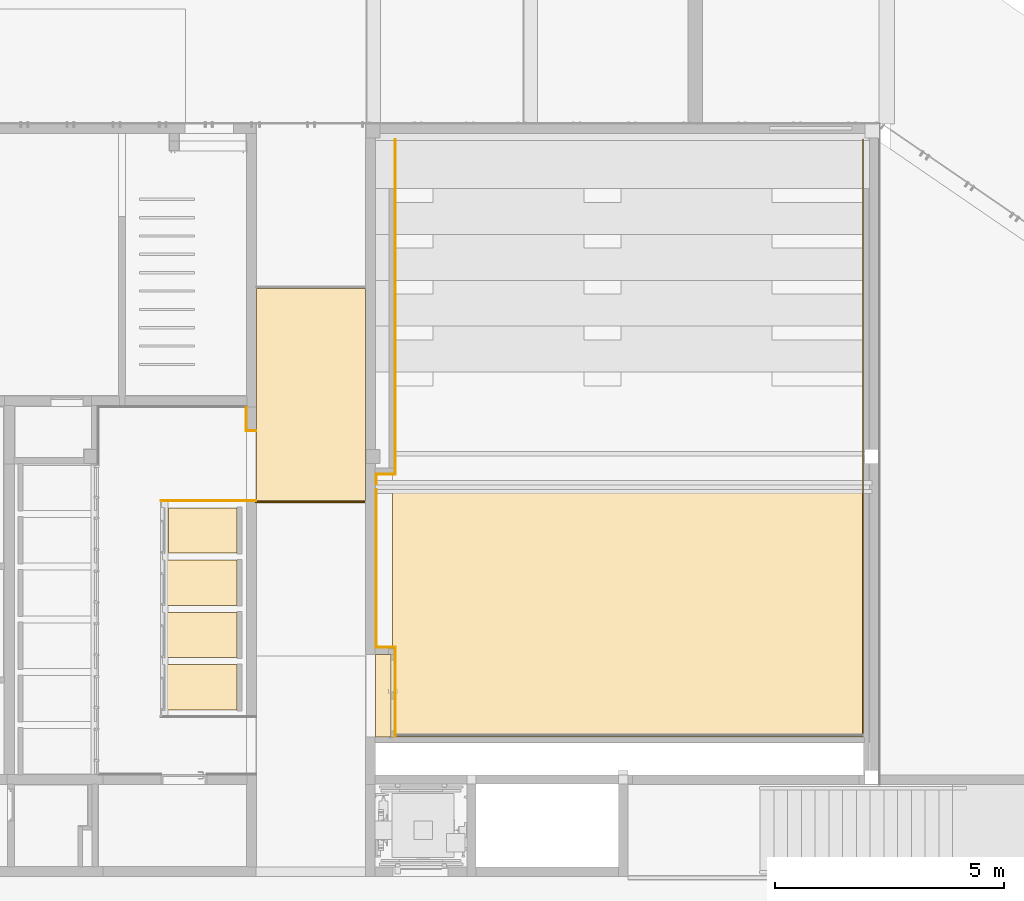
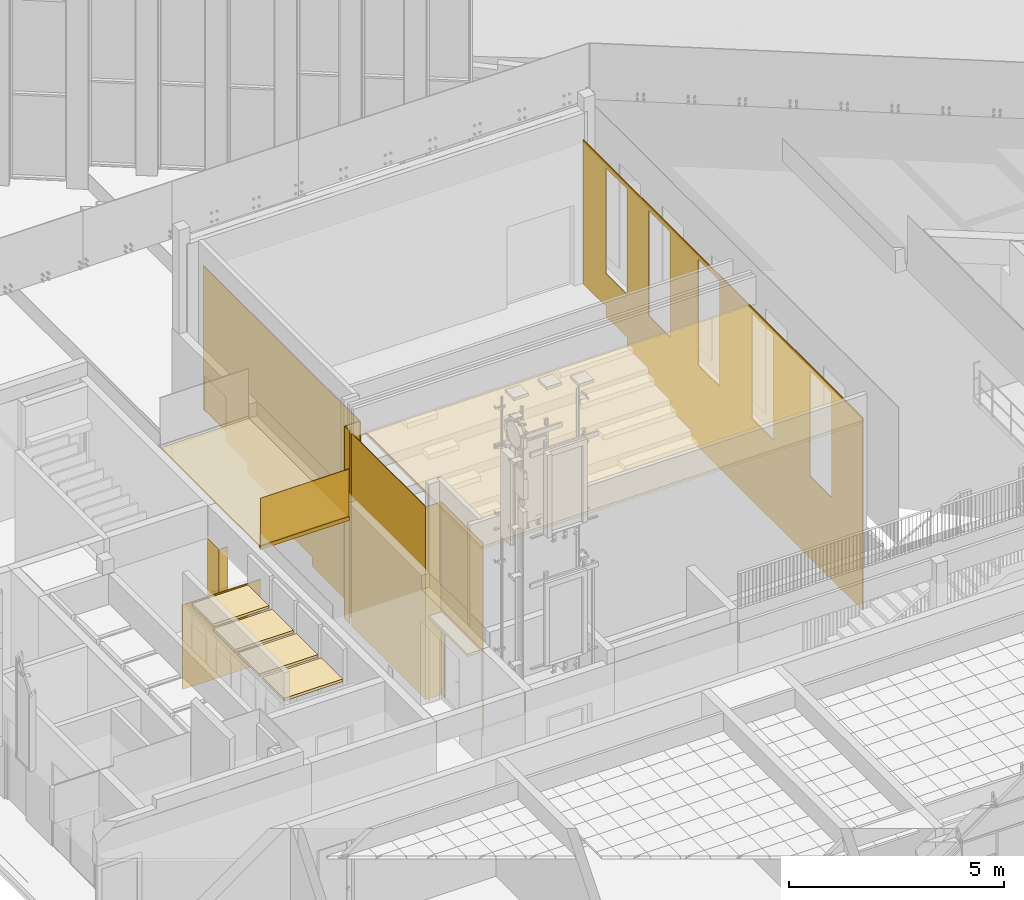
# One storey, part 172 of 246: 16 coverings, 1 door, 1 railing, 8 openings.
"""IFC2X3 building model written with IfcOpenShell, lengths in millimetres."""

from ifc_helpers import new_model, entity, si_unit, converted_unit, derived_unit, money_unit, direction, frame, origin_with_axes, place, context, subcontext, project, spatial, faceted_brep, material, material_list, type_object, element, fill, save


model = new_model("IFC2X3")

# Units and contexts
model_context = context("Model", 3, precision=0.01, world=origin_with_axes(), true_north=direction((0.0, 1.0)))
body_context = subcontext(model_context, "Body", "Model", "MODEL_VIEW")
ifc_project = project(units=[si_unit("LENGTHUNIT", "METRE", prefix="MILLI"), si_unit("AREAUNIT", "SQUARE_METRE"), si_unit("VOLUMEUNIT", "CUBIC_METRE"), converted_unit("PLANEANGLEUNIT", "DEGREE", entity("IfcPlaneAngleMeasure", 0.0174532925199), si_unit("PLANEANGLEUNIT", "RADIAN"), dimensions=[0, 0, 0, 0, 0, 0, 0]), si_unit("SOLIDANGLEUNIT", "STERADIAN"), money_unit("EUR"), converted_unit("TIMEUNIT", "Year", entity("IfcTimeMeasure", 31556926.0), si_unit("TIMEUNIT", "SECOND"), dimensions=[0, 0, 1, 0, 0, 0, 0]), si_unit("MASSUNIT", "GRAM", prefix="KILO"), si_unit("THERMODYNAMICTEMPERATUREUNIT", "DEGREE_CELSIUS"), si_unit("LUMINOUSINTENSITYUNIT", "LUMEN"), si_unit("ENERGYUNIT", "JOULE", prefix="MEGA"), derived_unit("THERMALCONDUCTANCEUNIT", [(si_unit("POWERUNIT", "WATT"), 1), (si_unit("LENGTHUNIT", "METRE"), -1), (si_unit("THERMODYNAMICTEMPERATUREUNIT", "KELVIN"), -1)]), derived_unit("SPECIFICHEATCAPACITYUNIT", [(si_unit("ENERGYUNIT", "JOULE"), 1), (si_unit("MASSUNIT", "GRAM", prefix="KILO"), -1), (si_unit("THERMODYNAMICTEMPERATUREUNIT", "KELVIN"), -1)]), derived_unit("MASSDENSITYUNIT", [(si_unit("MASSUNIT", "GRAM", prefix="KILO"), 1), (si_unit("VOLUMEUNIT", "CUBIC_METRE"), -1)])], contexts=[model_context])

# Site, building, storey
site_placement = place(None, origin_with_axes())
site = spatial("IfcSite", under=ifc_project, at=site_placement, Name="L.Koidula tn 11b", CompositionType="ELEMENT")
building_placement = place(site_placement, origin_with_axes())
building = spatial("IfcBuilding", under=site, at=building_placement, Name="Rakvere Riigigümnaasium", CompositionType="ELEMENT")
storey_placement = place(building_placement, origin_with_axes())
storey = spatial("IfcBuildingStorey", under=building, at=storey_placement, Name="1.korrus 0,00", CompositionType="ELEMENT", Elevation=0.0)

# Coverings
ifc_material_1 = material(Name="mineraalvill+karkass")
ifc_material_2 = material(Name="SKR-02_Kipsplaat")
ifc_material_list_1 = material_list([ifc_material_1, ifc_material_2])
covering_type_1 = type_object("IfcCoveringType", Name="SA-LV-kips 79", PredefinedType="CEILING")
covering_1_placement = place(storey_placement, frame((42612.8904586, 18720.4555123, 2400.0), z_axis=(0.0, 0.0, 1.0), x_axis=(1.0, 0.0, 0.0)))
element("IfcCovering", 1, at=covering_1_placement, inside=storey, type_object=covering_type_1, material=ifc_material_list_1, Name="L-04", PredefinedType="CEILING", context=body_context, shape_type="Brep", body=[
    faceted_brep([(1577.10953251, 0.0, 12.5), (1577.10953251, 0.0, 78.5), (0.0, 0.0, 78.5), (0.0, 0.0, 12.5), (1577.10953251, 995.0, 12.5), (1577.10953251, 995.0, 78.5), (0.0, 995.0, 78.5), (0.0, 995.0, 12.5)], [[[0, 1, 2, 3]], [[4, 5, 1, 0]], [[2, 1, 5, 6]], [[3, 2, 6, 7]], [[3, 7, 4, 0]], [[7, 6, 5, 4]]]),
    faceted_brep([(0.0, 0.0, 0.0), (1577.10953251, 0.0, 0.0), (1577.10953251, 0.0, 12.5), (0.0, 0.0, 12.5), (0.0, 995.0, 0.0), (1577.10953251, 995.0, 0.0), (1577.10953251, 995.0, 12.5), (0.0, 995.0, 12.5)], [[[0, 1, 2, 3]], [[0, 4, 5, 1]], [[1, 5, 6, 2]], [[3, 2, 6, 7]], [[4, 0, 3, 7]], [[5, 4, 7, 6]]]),
])
covering_2_placement = place(storey_placement, frame((42612.8904586, 19865.4555123, 2400.0), z_axis=(0.0, 0.0, 1.0), x_axis=(1.0, 0.0, 0.0)))
element("IfcCovering", 2, at=covering_2_placement, inside=storey, type_object=covering_type_1, material=ifc_material_list_1, Name="L-04", PredefinedType="CEILING", context=body_context, shape_type="Brep", body=[
    faceted_brep([(1577.10953251, 0.0, 12.5), (1577.10953251, 0.0, 78.5), (0.0, 0.0, 78.5), (0.0, 0.0, 12.5), (1577.10953251, 990.0, 12.5), (1577.10953251, 990.0, 78.5), (0.0, 990.0, 78.5), (0.0, 990.0, 12.5)], [[[0, 1, 2, 3]], [[4, 5, 1, 0]], [[2, 1, 5, 6]], [[3, 2, 6, 7]], [[3, 7, 4, 0]], [[7, 6, 5, 4]]]),
    faceted_brep([(0.0, 0.0, 0.0), (1577.10953251, 0.0, 0.0), (1577.10953251, 0.0, 12.5), (0.0, 0.0, 12.5), (0.0, 990.0, 0.0), (1577.10953251, 990.0, 0.0), (1577.10953251, 990.0, 12.5), (0.0, 990.0, 12.5)], [[[0, 1, 2, 3]], [[0, 4, 5, 1]], [[1, 5, 6, 2]], [[3, 2, 6, 7]], [[4, 0, 3, 7]], [[5, 4, 7, 6]]]),
])
covering_3_placement = place(storey_placement, frame((42612.8904586, 21005.4555123, 2400.0), z_axis=(0.0, 0.0, 1.0), x_axis=(1.0, 0.0, 0.0)))
element("IfcCovering", 3, at=covering_3_placement, inside=storey, type_object=covering_type_1, material=ifc_material_list_1, Name="L-04", PredefinedType="CEILING", context=body_context, shape_type="Brep", body=[
    faceted_brep([(1577.10953251, 0.0, 12.5), (1577.10953251, 0.0, 78.5), (0.0, 0.0, 78.5), (0.0, 0.0, 12.5), (1577.10953251, 989.463282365, 12.5), (1577.10953251, 989.463282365, 78.5), (0.0, 989.463282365, 78.5), (0.0, 989.463282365, 12.5)], [[[0, 1, 2, 3]], [[4, 5, 1, 0]], [[2, 1, 5, 6]], [[3, 2, 6, 7]], [[3, 7, 4, 0]], [[7, 6, 5, 4]]]),
    faceted_brep([(0.0, 0.0, 0.0), (1577.10953251, 0.0, 0.0), (1577.10953251, 0.0, 12.5), (0.0, 0.0, 12.5), (0.0, 989.463282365, 0.0), (1577.10953251, 989.463282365, 0.0), (1577.10953251, 989.463282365, 12.5), (0.0, 989.463282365, 12.5)], [[[0, 1, 2, 3]], [[0, 4, 5, 1]], [[1, 5, 6, 2]], [[3, 2, 6, 7]], [[4, 0, 3, 7]], [[5, 4, 7, 6]]]),
])
covering_4_placement = place(storey_placement, frame((42689.9999626, 22150.4555123, 2400.0), z_axis=(0.0, 0.0, 1.0), x_axis=(1.0, 0.0, 0.0)))
element("IfcCovering", 4, at=covering_4_placement, inside=storey, type_object=covering_type_1, material=ifc_material_list_1, Name="L-04", PredefinedType="CEILING", context=body_context, shape_type="Brep", body=[
    faceted_brep([(1500.00002852, 0.0, 12.5), (1500.00002852, 0.0, 78.5), (0.0, 0.0, 78.5), (0.0, 0.0, 12.5), (1500.00002852, 980.015843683, 12.5), (1500.00002852, 980.015843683, 78.5), (0.0, 980.015843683, 78.5), (0.0, 980.015843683, 12.5)], [[[0, 1, 2, 3]], [[4, 5, 1, 0]], [[2, 1, 5, 6]], [[3, 2, 6, 7]], [[3, 7, 4, 0]], [[7, 6, 5, 4]]]),
    faceted_brep([(0.0, 0.0, 0.0), (1500.00002852, 0.0, 0.0), (1500.00002852, 0.0, 12.5), (0.0, 0.0, 12.5), (0.0, 980.015843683, 0.0), (1500.00002852, 980.015843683, 0.0), (1500.00002852, 980.015843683, 12.5), (0.0, 980.015843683, 12.5)], [[[0, 1, 2, 3]], [[0, 4, 5, 1]], [[1, 5, 6, 2]], [[3, 2, 6, 7]], [[4, 0, 3, 7]], [[5, 4, 7, 6]]]),
])
covering_5_placement = place(storey_placement, frame((47579.9999935, 18140.4555095, 5325.0), z_axis=(0.0, 0.0, 1.0), x_axis=(1.0, 0.0, 0.0)))
element("IfcCovering", 5, at=covering_5_placement, inside=storey, type_object=covering_type_1, material=ifc_material_list_1, Name="L-01", PredefinedType="CEILING", context=body_context, shape_type="Brep", body=[
    faceted_brep([(10265.0348166, 0.0, 12.5), (10265.0348166, 0.0, 78.5), (0.0, 0.0, 78.5), (0.0, 0.0, 12.5), (10265.0348166, 5394.89997851, 12.5), (10265.0348166, 5394.89997851, 78.5), (0.0, 5394.89997851, 78.5), (0.0, 5394.89997851, 12.5)], [[[0, 1, 2, 3]], [[4, 5, 1, 0]], [[2, 1, 5, 6]], [[3, 2, 6, 7]], [[3, 7, 4, 0]], [[7, 6, 5, 4]]]),
    faceted_brep([(0.0, 0.0, 0.0), (10265.0348166, 0.0, 0.0), (10265.0348166, 0.0, 12.5), (0.0, 0.0, 12.5), (0.0, 5394.89997851, 0.0), (10265.0348166, 5394.89997851, 0.0), (10265.0348166, 5394.89997851, 12.5), (0.0, 5394.89997851, 12.5)], [[[0, 1, 2, 3]], [[0, 4, 5, 1]], [[1, 5, 6, 2]], [[3, 2, 6, 7]], [[4, 0, 3, 7]], [[5, 4, 7, 6]]]),
])
covering_6_placement = place(storey_placement, frame((47209.9999935, 18140.4555095, 2400.0), z_axis=(0.0, 0.0, 1.0), x_axis=(1.0, 0.0, 0.0)))
element("IfcCovering", 6, at=covering_6_placement, inside=storey, type_object=covering_type_1, material=ifc_material_list_1, Name="L-04", PredefinedType="CEILING", context=body_context, shape_type="Brep", body=[
    faceted_brep([(334.999999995, 0.0, 12.5), (334.999999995, 0.0, 78.5), (0.0, 0.0, 78.5), (0.0, 0.0, 12.5), (334.999999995, 1789.99999981, 12.5), (334.999999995, 1789.99999981, 78.5), (0.0, 1789.99999981, 78.5), (0.0, 1789.99999981, 12.5)], [[[0, 1, 2, 3]], [[4, 5, 1, 0]], [[2, 1, 5, 6]], [[3, 2, 6, 7]], [[3, 7, 4, 0]], [[7, 6, 5, 4]]]),
    faceted_brep([(0.0, 0.0, 0.0), (334.999999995, 0.0, 0.0), (334.999999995, 0.0, 12.5), (0.0, 0.0, 12.5), (0.0, 1789.99999981, 0.0), (334.999999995, 1789.99999981, 0.0), (334.999999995, 1789.99999981, 12.5), (0.0, 1789.99999981, 12.5)], [[[0, 1, 2, 3]], [[0, 4, 5, 1]], [[1, 5, 6, 2]], [[3, 2, 6, 7]], [[4, 0, 3, 7]], [[5, 4, 7, 6]]]),
])

# Covering, openings
ifc_material_3 = material(Name="MDF")
covering_type_2 = type_object("IfcCoveringType", Name="MDF 20", PredefinedType="CLADDING")
covering_7_placement = place(storey_placement, frame((57845.0348101, 31165.4555152, 0.0), z_axis=(0.0, 0.0, 1.0), x_axis=(0.0, -1.0, 0.0)))
covering_7 = element("IfcCovering", 7, at=covering_7_placement, inside=storey, type_object=covering_type_2, material=ifc_material_3, Name="S-05", PredefinedType="CLADDING", context=body_context, shape_type="Brep", body=[
    faceted_brep([(1069.99998655, 0.0, 1394.9938315), (69.9999865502, 0.0, 1394.9938315), (0.0, 0.0, 1394.9938315), (0.0, 0.0, 5476.73863187), (13025.0000057, 0.0, 5476.73863187), (13025.0000057, 0.0, 0.0), (5069.99998655, 0.0, 0.0), (5069.99998655, 0.0, 278.993831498), (4070.00000374, 0.0, 278.993831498), (4070.00000374, 0.0, 557.993831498), (3070.00000374, 0.0, 557.993831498), (3070.00000374, 0.0, 836.993831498), (2070.00000374, 0.0, 836.993831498), (2070.00000374, 0.0, 1115.9938315), (1069.99998655, 0.0, 1115.9938315), (3070.00075971, 0.0, 2325.0), (4070.00075971, 0.0, 2325.0), (4070.00075971, 0.0, 5325.0), (3070.00075971, 0.0, 5325.0), (1070.00000622, 0.0, 5325.0), (1070.00000622, 0.0, 2325.0), (2070.00000622, 0.0, 2325.0), (2070.00000622, 0.0, 5325.0), (6370.00075971, 0.0, 5325.0), (5370.00075971, 0.0, 5325.0), (5370.00075971, 0.0, 2325.0), (6370.00075971, 0.0, 2325.0), (8870.00075971, 0.0, 2325.0), (8870.00075971, 0.0, 5325.0), (7870.00075971, 0.0, 5325.0), (7870.00075971, 0.0, 2325.0), (10569.9999382, 0.0, 2325.0), (11569.9999382, 0.0, 2325.0), (11569.9999382, 0.0, 5325.0), (10569.9999382, 0.0, 5325.0), (1069.99998655, -20.0, 1394.9938315), (69.9999865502, -20.0, 1394.9938315), (0.0, -20.0, 1394.9938315), (0.0, -20.0, 5476.73863187), (13025.0000057, -20.0, 5476.73863187), (13025.0000057, -20.0, 0.0), (5069.99998655, -20.0, 0.0), (5069.99998655, -20.0, 278.993831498), (4370.00003245, -20.0, 278.993831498), (4370.00003245, -19.4573039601, 278.993831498), (4070.00000622, -19.4573039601, 278.993831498), (4070.00000622, -19.4573039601, 557.993831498), (4070.00000622, -20.0, 557.993831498), (3370.00003245, -20.0, 557.993831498), (3370.00003245, -19.4573039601, 557.993831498), (3070.00000622, -19.4573039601, 557.993831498), (3070.00000622, -19.4573039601, 836.993831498), (3070.00000622, -20.0, 836.993831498), (2370.00003245, -20.0, 836.993831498), (2370.00003245, -19.4573039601, 836.993831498), (2070.00000622, -19.4573039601, 836.993831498), (2070.00000622, -19.4573039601, 1115.9938315), (2070.00000622, -20.0, 1115.9938315), (1370.14637063, -20.0, 1115.9938315), (1370.14637063, -19.4573039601, 1115.9938315), (1070.1463444, -19.4573039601, 1115.9938315), (1070.1463444, -20.0, 1115.9938315), (1069.99998655, -20.0, 1115.9938315), (4070.00075971, -20.0, 2325.0), (3070.00075971, -20.0, 2325.0), (4070.00075971, -20.0, 5325.0), (3070.00075971, -20.0, 5325.0), (1070.00000622, -20.0, 5325.0), (1070.00000622, -20.0, 2325.0), (2070.00000622, -20.0, 2325.0), (2070.00000622, -20.0, 5325.0), (6370.00075971, -20.0, 5325.0), (5370.00075971, -20.0, 5325.0), (5370.00075971, -20.0, 2325.0), (6370.00075971, -20.0, 2325.0), (8870.00075971, -20.0, 2325.0), (8870.00075971, -20.0, 5325.0), (7870.00075971, -20.0, 5325.0), (7870.00075971, -20.0, 2325.0), (11569.9999382, -20.0, 2325.0), (10569.9999382, -20.0, 2325.0), (11569.9999382, -20.0, 5325.0), (10569.9999382, -20.0, 5325.0), (1070.1463444, -20.0, 1095.9938315), (1370.14637063, -20.0, 1095.9938315), (2070.00000622, -20.0, 816.993831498), (2370.00003245, -20.0, 816.993831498), (3070.00000622, -20.0, 537.993831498), (3370.00003245, -20.0, 537.993831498), (4070.00000622, -20.0, 258.993831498), (4370.00003245, -20.0, 258.993831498), (4370.00003245, -19.4573039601, 258.993831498), (4070.00000622, -19.4573039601, 258.993831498), (3370.00003245, -19.4573039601, 537.993831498), (3070.00000622, -19.4573039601, 537.993831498), (2370.00003245, -19.4573039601, 816.993831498), (2070.00000622, -19.4573039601, 816.993831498), (1370.14637063, -19.4573039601, 1095.9938315), (1070.1463444, -19.4573039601, 1095.9938315)], [[[0, 1, 2, 3, 4, 5, 6, 7, 8, 9, 10, 11, 12, 13, 14], [15, 16, 17, 18], [19, 20, 21, 22], [23, 24, 25, 26], [27, 28, 29, 30], [31, 32, 33, 34]], [[1, 0, 35, 36]], [[37, 2, 1, 36]], [[2, 37, 38, 3]], [[38, 39, 4, 3]], [[40, 5, 4, 39]], [[41, 6, 5, 40]], [[7, 6, 41, 42]], [[8, 7, 42, 43, 44, 45]], [[9, 8, 45, 46]], [[10, 9, 46, 47, 48, 49, 50]], [[11, 10, 50, 51]], [[12, 11, 51, 52, 53, 54, 55]], [[13, 12, 55, 56]], [[14, 13, 56, 57, 58, 59, 60, 61, 62]], [[0, 14, 62, 35]], [[63, 16, 15, 64]], [[65, 17, 16, 63]], [[66, 18, 17, 65]], [[64, 15, 18, 66]], [[67, 68, 20, 19]], [[68, 69, 21, 20]], [[69, 70, 22, 21]], [[70, 67, 19, 22]], [[23, 71, 72, 24]], [[24, 72, 73, 25]], [[25, 73, 74, 26]], [[26, 74, 71, 23]], [[28, 27, 75, 76]], [[29, 28, 76, 77]], [[30, 29, 77, 78]], [[27, 30, 78, 75]], [[79, 32, 31, 80]], [[81, 33, 32, 79]], [[82, 34, 33, 81]], [[80, 31, 34, 82]], [[42, 41, 40, 39, 38, 37, 36, 35, 62, 61, 83, 84, 58, 57, 85, 86, 53, 52, 87, 88, 48, 47, 89, 90, 43], [65, 63, 64, 66], [67, 70, 69, 68], [73, 72, 71, 74], [75, 78, 77, 76], [81, 79, 80, 82]], [[43, 90, 91, 44]], [[44, 91, 92, 45]], [[89, 47, 46, 45, 92]], [[48, 88, 93, 49]], [[49, 93, 94, 50]], [[87, 52, 51, 50, 94]], [[53, 86, 95, 54]], [[54, 95, 96, 55]], [[85, 57, 56, 55, 96]], [[58, 84, 97, 59]], [[59, 97, 98, 60]], [[83, 61, 60, 98]], [[84, 83, 98, 97]], [[86, 85, 96, 95]], [[88, 87, 94, 93]], [[90, 89, 92, 91]]]),
])
opening_1_placement = place(covering_7_placement, frame((3570.00075971, 0.0, 2325.0), z_axis=(0.0, 0.0, 1.0), x_axis=(1.0, 0.0, 0.0)))
element("IfcOpeningElement", 8, at=opening_1_placement, cuts=covering_7, Name="ava", context=body_context, shape_type="Brep", body=[
    faceted_brep([(-500.0, -40.0, 0.0), (-500.0, -40.0, 3000.0), (-500.0, 20.0, 3000.0), (-500.0, 20.0, 0.0), (500.0, -40.0, 0.0), (500.0, -40.0, 3000.0), (500.0, 20.0, 3000.0), (500.0, 20.0, 0.0)], [[[0, 1, 2, 3]], [[0, 4, 5, 1]], [[1, 5, 6, 2]], [[3, 2, 6, 7]], [[4, 0, 3, 7]], [[5, 4, 7, 6]]]),
])
opening_2_placement = place(covering_7_placement, frame((1570.00000622, 0.0, 2325.0), z_axis=(0.0, 0.0, 1.0), x_axis=(1.0, 0.0, 0.0)))
element("IfcOpeningElement", 9, at=opening_2_placement, cuts=covering_7, Name="ava", context=body_context, shape_type="Brep", body=[
    faceted_brep([(-500.0, -40.0, 0.0), (-500.0, -40.0, 3000.0), (-500.0, 20.0, 3000.0), (-500.0, 20.0, 0.0), (500.0, -40.0, 0.0), (500.0, -40.0, 3000.0), (500.0, 20.0, 3000.0), (500.0, 20.0, 0.0)], [[[0, 1, 2, 3]], [[0, 4, 5, 1]], [[1, 5, 6, 2]], [[3, 2, 6, 7]], [[4, 0, 3, 7]], [[5, 4, 7, 6]]]),
])
opening_3_placement = place(covering_7_placement, frame((5870.00075971, 0.0, 2325.0), z_axis=(0.0, 0.0, 1.0), x_axis=(1.0, 0.0, 0.0)))
element("IfcOpeningElement", 10, at=opening_3_placement, cuts=covering_7, Name="ava", context=body_context, shape_type="Brep", body=[
    faceted_brep([(-500.0, -40.0, 0.0), (-500.0, -40.0, 3000.0), (-500.0, 20.0, 3000.0), (-500.0, 20.0, 0.0), (500.0, -40.0, 0.0), (500.0, -40.0, 3000.0), (500.0, 20.0, 3000.0), (500.0, 20.0, 0.0)], [[[0, 1, 2, 3]], [[0, 4, 5, 1]], [[1, 5, 6, 2]], [[3, 2, 6, 7]], [[4, 0, 3, 7]], [[5, 4, 7, 6]]]),
])
opening_4_placement = place(covering_7_placement, frame((8370.00075971, 0.0, 2325.0), z_axis=(0.0, 0.0, 1.0), x_axis=(1.0, 0.0, 0.0)))
element("IfcOpeningElement", 11, at=opening_4_placement, cuts=covering_7, Name="ava", context=body_context, shape_type="Brep", body=[
    faceted_brep([(-500.0, -40.0, 0.0), (-500.0, -40.0, 3000.0), (-500.0, 20.0, 3000.0), (-500.0, 20.0, 0.0), (500.0, -40.0, 0.0), (500.0, -40.0, 3000.0), (500.0, 20.0, 3000.0), (500.0, 20.0, 0.0)], [[[0, 1, 2, 3]], [[0, 4, 5, 1]], [[1, 5, 6, 2]], [[3, 2, 6, 7]], [[4, 0, 3, 7]], [[5, 4, 7, 6]]]),
])
opening_5_placement = place(covering_7_placement, frame((11069.9999382, 0.0, 2325.0), z_axis=(0.0, 0.0, 1.0), x_axis=(1.0, 0.0, 0.0)))
element("IfcOpeningElement", 12, at=opening_5_placement, cuts=covering_7, Name="ava", context=body_context, shape_type="Brep", body=[
    faceted_brep([(-500.0, -40.0, 0.0), (-500.0, -40.0, 3000.0), (-500.0, 20.0, 3000.0), (-500.0, 20.0, 0.0), (500.0, -40.0, 0.0), (500.0, -40.0, 3000.0), (500.0, 20.0, 3000.0), (500.0, 20.0, 0.0)], [[[0, 1, 2, 3]], [[0, 4, 5, 1]], [[1, 5, 6, 2]], [[3, 2, 6, 7]], [[4, 0, 3, 7]], [[5, 4, 7, 6]]]),
])

# Covering, openings, door
covering_8_placement = place(storey_placement, frame((47624.9999817, 18140.4555095, 0.0), z_axis=(0.0, 0.0, 1.0), x_axis=(0.0, 1.0, 0.0)))
covering_8 = element("IfcCovering", 13, at=covering_8_placement, inside=storey, type_object=covering_type_2, material=ifc_material_3, Name="S-05", PredefinedType="CLADDING", context=body_context, shape_type="Brep", body=[
    faceted_brep([(20.0006644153, -20.0, 2380.0), (1780.00066442, -20.0, 2380.0), (1780.00066442, -20.0, 0.0), (1964.99999981, -20.0, 0.0), (1964.99999981, -20.0, 5476.73863187), (0.0, -20.0, 5476.73863187), (0.0, -20.0, 0.0), (20.0006644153, -20.0, 0.0), (20.0006644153, 0.0, 2380.0), (1780.00066442, 0.0, 2380.0), (1780.00066442, 0.0, 0.0), (1964.99999981, 0.0, 0.0), (1964.99999981, 0.0, 5476.73863187), (0.0, 0.0, 5476.73863187), (0.0, 0.0, 0.0), (20.0006644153, 0.0, 0.0)], [[[0, 1, 2, 3, 4, 5, 6, 7]], [[8, 9, 1, 0]], [[9, 10, 2, 1]], [[3, 2, 10, 11]], [[4, 3, 11, 12]], [[12, 13, 5, 4]], [[5, 13, 14, 6]], [[6, 14, 15, 7]], [[15, 8, 0, 7]], [[15, 14, 13, 12, 11, 10, 9, 8]]]),
    faceted_brep([(11955.0000192, -20.0, 1394.9938315), (12955.0000192, -20.0, 1394.9938315), (13025.0000057, -20.0, 1394.9938315), (13025.0000057, -20.0, 5476.73863187), (5720.00071017, -20.0, 5476.73863187), (5720.00071017, -20.0, 0.0), (7955.00001917, -20.0, 0.0), (7955.00001917, -20.0, 278.993831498), (8955.00001724, -20.0, 278.993831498), (8955.00001724, -20.0, 557.993831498), (9955.00001724, -20.0, 557.993831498), (9955.00001724, -20.0, 836.993831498), (10955.0000172, -20.0, 836.993831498), (10955.0000172, -20.0, 1115.9938315), (11955.0000192, -20.0, 1115.9938315), (12954.853687, -20.0, 1420.0), (11954.853687, -20.0, 1420.0), (11954.853687, -20.0, 2380.0), (12954.853687, -20.0, 2380.0), (11955.0000192, 0.0, 1394.9938315), (12955.0000192, 0.0, 1394.9938315), (13025.0000057, 0.0, 1394.9938315), (13025.0000057, 0.0, 5476.73863187), (5720.00071017, 0.0, 5476.73863187), (5720.00071017, 0.0, 0.0), (7955.00001917, 0.0, 0.0), (7955.00001917, 0.0, 278.993831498), (8955.00001733, 0.0, 278.993831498), (8955.00001733, 0.0, 557.993831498), (9955.00001733, 0.0, 557.993831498), (9955.00001733, 0.0, 836.993831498), (10955.0000173, 0.0, 836.993831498), (10955.0000173, 0.0, 1115.9938315), (11955.0000192, 0.0, 1115.9938315), (11954.853687, 0.0, 1420.0), (12954.853687, 0.0, 1420.0), (11954.853687, 0.0, 2380.0), (12954.853687, 0.0, 2380.0)], [[[0, 1, 2, 3, 4, 5, 6, 7, 8, 9, 10, 11, 12, 13, 14], [15, 16, 17, 18]], [[1, 0, 19, 20]], [[21, 2, 1, 20]], [[2, 21, 22, 3]], [[23, 4, 3, 22]], [[5, 4, 23, 24]], [[25, 6, 5, 24]], [[7, 6, 25, 26]], [[8, 7, 26, 27]], [[9, 8, 27, 28]], [[10, 9, 28, 29]], [[11, 10, 29, 30]], [[12, 11, 30, 31]], [[13, 12, 31, 32]], [[14, 13, 32, 33]], [[0, 14, 33, 19]], [[34, 16, 15, 35]], [[36, 17, 16, 34]], [[37, 18, 17, 36]], [[35, 15, 18, 37]], [[26, 25, 24, 23, 22, 21, 20, 19, 33, 32, 31, 30, 29, 28, 27], [36, 34, 35, 37]]]),
])
opening_6_placement = place(covering_8_placement, frame((12454.853687, 0.0, 1420.0), z_axis=(0.0, 0.0, 1.0), x_axis=(1.0, 0.0, 0.0)))
opening_6 = element("IfcOpeningElement", 14, at=opening_6_placement, cuts=covering_8, Name="SLXX", context=body_context, shape_type="Brep", body=[
    faceted_brep([(500.0, -40.0, 960.0), (500.0, -40.0, 0.0), (500.0, 20.0, 0.0), (500.0, 20.0, 960.0), (-500.0, -40.0, 960.0), (-500.0, -40.0, 0.0), (-500.0, 20.0, 0.0), (-500.0, 20.0, 960.0)], [[[0, 1, 2, 3]], [[0, 4, 5, 1]], [[1, 5, 6, 2]], [[3, 2, 6, 7]], [[4, 0, 3, 7]], [[5, 4, 7, 6]]]),
])
opening_7_placement = place(covering_8_placement, frame((900.000664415, 0.0, 0.0), z_axis=(0.0, 0.0, 1.0), x_axis=(1.0, 0.0, 0.0)))
element("IfcOpeningElement", 15, at=opening_7_placement, cuts=covering_8, Name="ava", context=body_context, shape_type="Brep", body=[
    faceted_brep([(-880.0, -40.0, 0.0), (-880.0, -40.0, 2380.0), (-880.0, 20.0, 2380.0), (-880.0, 20.0, 0.0), (880.0, -40.0, 0.0), (880.0, -40.0, 2380.0), (880.0, 20.0, 2380.0), (880.0, 20.0, 0.0)], [[[0, 1, 2, 3]], [[0, 4, 5, 1]], [[1, 5, 6, 2]], [[3, 2, 6, 7]], [[4, 0, 3, 7]], [[5, 4, 7, 6]]]),
])
opening_8_placement = place(covering_8_placement, frame((3842.50035499, 0.0, 0.0), z_axis=(0.0, 0.0, 1.0), x_axis=(1.0, 0.0, 0.0)))
element("IfcOpeningElement", 16, at=opening_8_placement, cuts=covering_8, Name="ava", context=body_context, shape_type="Brep", body=[
    faceted_brep([(-1877.50035518, -40.0, 0.0), (-1877.50035518, -40.0, 5476.73863187), (-1877.50035518, 20.0, 5476.73863187), (-1877.50035518, 20.0, 0.0), (1877.50035518, -40.0, 0.0), (1877.50035518, -40.0, 5476.73863187), (1877.50035518, 20.0, 5476.73863187), (1877.50035518, 20.0, 0.0)], [[[0, 1, 2, 3]], [[0, 4, 5, 1]], [[1, 5, 6, 2]], [[3, 2, 6, 7]], [[4, 0, 3, 7]], [[5, 4, 7, 6]]]),
])
door_style = type_object("IfcDoorStyle", Name="Double Door 23", ConstructionType="NOTDEFINED", OperationType="DOUBLE_DOOR_SINGLE_SWING", ParameterTakesPrecedence=False, Sizeable=False)
door_placement = place(opening_6_placement, frame((500.0, 0.0, 0.0), z_axis=(0.0, 0.0, 1.0), x_axis=(-1.0, 0.0, 0.0)))
door = element("IfcDoor", 17, at=door_placement, inside=storey, type_object=door_style, Name="SLXX", ObjectType="DOOR", OverallHeight=960.0, OverallWidth=1000.0, context=body_context, shape_type="Brep", body=[
    faceted_brep([(0.0, 20.0, 0.0), (300.0, 20.0, 0.0), (300.0, 0.0, 0.0), (0.0, 0.0, 0.0), (0.0, 20.0, 960.0), (300.0, 20.0, 960.0), (300.0, 0.0, 960.0), (0.0, 0.0, 960.0)], [[[0, 1, 2, 3]], [[0, 4, 5, 1]], [[1, 5, 6, 2]], [[3, 2, 6, 7]], [[4, 0, 3, 7]], [[5, 4, 7, 6]]]),
    faceted_brep([(1000.0, 20.0, 0.0), (1000.0, 0.0, 0.0), (300.0, 0.0, 0.0), (300.0, 20.0, 0.0), (1000.0, 20.0, 960.0), (1000.0, 0.0, 960.0), (300.0, 0.0, 960.0), (300.0, 20.0, 960.0)], [[[0, 1, 2, 3]], [[4, 5, 1, 0]], [[1, 5, 6, 2]], [[3, 2, 6, 7]], [[0, 3, 7, 4]], [[7, 6, 5, 4]]]),
])
fill(opening_6, door)

# Coverings
covering_9_placement = place(storey_placement, frame((44399.9999417, 25350.4516763, 0.0), z_axis=(0.0, 0.0, 1.0), x_axis=(0.0, -1.0, 0.0)))
element("IfcCovering", 18, at=covering_9_placement, inside=storey, type_object=covering_type_2, material=ifc_material_3, Name="S-07", PredefinedType="CLADDING", context=body_context, shape_type="Brep", body=[
    faceted_brep([(529.979924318, 0.0, 0.0), (529.979924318, -20.0, 0.0), (20.0, -20.0, 0.0), (20.0, 0.0, 0.0), (529.979924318, 0.0, 2400.0), (529.979924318, -20.0, 2400.0), (20.0, -20.0, 2400.0), (20.0, 0.0, 2400.0)], [[[0, 1, 2, 3]], [[1, 0, 4, 5]], [[1, 5, 6, 2]], [[7, 3, 2, 6]], [[4, 0, 3, 7]], [[5, 4, 7, 6]]]),
])
for number, where, z_axis, x_axis, name in (
    (19, (47624.9999817, 20085.4555093, 0.0), (0.0, 0.0, 1.0), (-1.0, 0.0, 0.0), "S-05"),
    (20, (47209.9999935, 23880.4562197, 0.0), (0.0, 0.0, 1.0), (1.0, 0.0, 0.0), "S-05"),
):
    element("IfcCovering", number, at=place(storey_placement, frame(where, z_axis=z_axis, x_axis=x_axis)), inside=storey, type_object=covering_type_2, material=ifc_material_3, Name=name, PredefinedType="CLADDING", context=body_context, shape_type="Brep", body=[
        faceted_brep([(414.999988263, 0.0, 0.0), (414.999988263, -20.0, 0.0), (0.0, -20.0, 0.0), (0.0, 0.0, 0.0), (414.999988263, 0.0, 5476.73863187), (414.999988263, -20.0, 5476.73863187), (0.0, -20.0, 5476.73863187), (0.0, 0.0, 5476.73863187)], [[[0, 1, 2, 3]], [[1, 0, 4, 5]], [[1, 5, 6, 2]], [[7, 3, 2, 6]], [[4, 0, 3, 7]], [[5, 4, 7, 6]]]),
    ])
covering_10_placement = place(storey_placement, frame((44609.9999911, 24820.471752, 0.0), z_axis=(0.0, 0.0, 1.0), x_axis=(-1.0, 0.0, 0.0)))
element("IfcCovering", 21, at=covering_10_placement, inside=storey, type_object=covering_type_2, material=ifc_material_3, Name="S-07", PredefinedType="CLADDING", context=body_context, shape_type="Brep", body=[
    faceted_brep([(230.000049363, 0.0, 2400.0), (230.000049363, 20.0, 2400.0), (0.0, 20.0, 2400.0), (0.0, 0.0, 2400.0), (230.000049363, 0.0, 0.0), (230.000049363, 20.0, 0.0), (0.0, 20.0, 0.0), (0.0, 0.0, 0.0)], [[[0, 1, 2, 3]], [[1, 0, 4, 5]], [[1, 5, 6, 2]], [[7, 3, 2, 6]], [[4, 0, 3, 7]], [[5, 4, 7, 6]]]),
])
covering_11_placement = place(storey_placement, frame((47209.9999935, 20085.4555093, 0.0), z_axis=(0.0, 0.0, 1.0), x_axis=(0.0, 1.0, 0.0)))
element("IfcCovering", 22, at=covering_11_placement, inside=storey, type_object=covering_type_2, material=ifc_material_3, Name="S-05", PredefinedType="CLADDING", context=body_context, shape_type="Brep", body=[
    faceted_brep([(20.0, 0.0, 0.0), (3449.8999787, 0.0, 0.0), (3449.8999787, -20.0, 0.0), (20.0, -20.0, 0.0), (20.0, 0.0, 5476.73863187), (3449.8999787, 0.0, 5476.73863187), (3449.8999787, -20.0, 5476.73863187), (20.0, -20.0, 5476.73863187)], [[[0, 1, 2, 3]], [[4, 5, 1, 0]], [[2, 1, 5, 6]], [[3, 2, 6, 7]], [[4, 0, 3, 7]], [[7, 6, 5, 4]]]),
])
covering_12_placement = place(storey_placement, frame((47209.9999935, 23635.355488, 0.0), z_axis=(0.0, 0.0, 1.0), x_axis=(0.0, 1.0, 0.0)))
element("IfcCovering", 23, at=covering_12_placement, inside=storey, type_object=covering_type_2, material=ifc_material_3, Name="S-05", PredefinedType="CLADDING", context=body_context, shape_type="Brep", body=[
    faceted_brep([(225.10073166, 0.0, 0.0), (225.10073166, -20.0, 0.0), (0.0, -20.0, 0.0), (0.0, 0.0, 0.0), (225.10073166, 0.0, 5476.73863187), (225.10073166, -20.0, 5476.73863187), (0.0, -20.0, 5476.73863187), (0.0, 0.0, 5476.73863187)], [[[0, 1, 2, 3]], [[1, 0, 4, 5]], [[1, 5, 6, 2]], [[7, 3, 2, 6]], [[4, 0, 3, 7]], [[5, 4, 7, 6]]]),
])
covering_13_placement = place(storey_placement, frame((42519.9999626, 23275.4713523, 0.0), z_axis=(0.0, 0.0, 1.0), x_axis=(1.0, 0.0, 0.0)))
element("IfcCovering", 24, at=covering_13_placement, inside=storey, type_object=covering_type_2, material=ifc_material_3, Name="S-07", PredefinedType="CLADDING", context=body_context, shape_type="Brep", body=[
    faceted_brep([(0.0, 0.0, 2400.0), (2090.00002852, 0.0, 2400.0), (2090.00002852, 20.0, 2400.0), (0.0, 20.0, 2400.0), (0.0, 0.0, 0.0), (2090.00002852, 0.0, 0.0), (2090.00002852, 20.0, 0.0), (0.0, 20.0, 0.0)], [[[0, 1, 2, 3]], [[4, 5, 1, 0]], [[2, 1, 5, 6]], [[3, 2, 6, 7]], [[4, 0, 3, 7]], [[7, 6, 5, 4]]]),
])
ifc_material_4 = material(Name="Krohv akustiline")
covering_type_3 = type_object("IfcCoveringType", Name="Krohv akustiline 42", PredefinedType="CEILING")
covering_14_placement = place(storey_placement, frame((46990.000013, 27920.4555148, 3325.0), z_axis=(0.0, 0.0, 1.0), x_axis=(1.0, 0.0, 0.0)))
element("IfcCovering", 25, at=covering_14_placement, inside=storey, type_object=covering_type_3, material=ifc_material_4, Name="L-06", PredefinedType="CEILING", context=body_context, shape_type="Brep", body=[
    faceted_brep([(0.0, 0.0, 0.0), (0.0, 0.0, -42.0), (-2380.00002186, -0.000206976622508, -42.0), (-2380.00002186, -0.000206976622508, 0.0), (0.0, -4629.9842294, 0.0), (0.0, -4629.9842294, -42.0), (-2380.00002186, -4629.9842294, -42.0), (-2380.00002186, -4629.9842294, 0.0)], [[[0, 1, 2, 3]], [[4, 5, 1, 0]], [[2, 1, 5, 6]], [[3, 2, 6, 7]], [[4, 0, 3, 7]], [[7, 6, 5, 4]]]),
])

# Railing
ifc_material_5 = material(Name="Alumiiniumprofiil")
ifc_material_6 = material(Name="VKR-05_Klaas")
ifc_material_7 = material(Name="ET-07_Teras - Roostevaba")
ifc_material_list_2 = material_list([ifc_material_5, ifc_material_6, ifc_material_7, ifc_material_6, ifc_material_7])
railing_type = type_object("IfcRailingType", Name="Railing Type", PredefinedType="NOTDEFINED")
railing_placement = place(storey_placement, frame((46980.000137, 23290.4712854, 3720.0), z_axis=(0.0, 0.0, 1.0), x_axis=(1.0, 0.0, 0.0)))
element("IfcRailing", 26, at=railing_placement, inside=storey, type_object=railing_type, material=ifc_material_list_2, Name="SP-46", PredefinedType="NOTDEFINED", context=body_context, shape_type="Brep", body=[
    faceted_brep([(0.0, -20.0, 1000.0), (0.0, -20.0, 980.0), (-2380.00000237, -20.0, 980.0), (-2380.00000237, -20.0, 1000.0), (0.0, -40.0, 1000.0), (0.0, -40.0, 980.0), (0.0, -22.0, 998.0), (0.0, -22.0, 982.0), (0.0, -38.0, 982.0), (0.0, -38.0, 998.0), (-2380.00000237, -40.0, 980.0), (-2380.00000237, -40.0, 1000.0), (-2380.00000237, -22.0, 998.0), (-2380.00000237, -38.0, 998.0), (-2380.00000237, -38.0, 982.0), (-2380.00000237, -22.0, 982.0)], [[[0, 1, 2, 3]], [[0, 4, 5, 1], [6, 7, 8, 9]], [[1, 5, 10, 2]], [[3, 2, 10, 11], [12, 13, 14, 15]], [[4, 0, 3, 11]], [[5, 4, 11, 10]], [[7, 6, 12, 15]], [[8, 7, 15, 14]], [[9, 8, 14, 13]], [[6, 9, 13, 12]]]),
    faceted_brep([(-1190.00000119, -38.0, -430.0), (0.0, -38.0, -430.0), (0.0, -38.0, 998.0), (-1190.00000119, -38.0, 998.0), (0.0, -22.0, -430.0), (-1190.00000119, -22.0, -430.0), (0.0, -22.0, 998.0), (-1190.00000119, -22.0, 998.0)], [[[0, 1, 2, 3]], [[4, 1, 0, 5]], [[6, 2, 1, 4]], [[3, 2, 6, 7]], [[0, 3, 7, 5]], [[6, 4, 5, 7]]]),
    faceted_brep([(0.0, -5.0, -337.0), (0.0, -5.0, -447.0), (-1190.00000119, -5.0, -447.0), (-1210.00000119, -5.0, -447.0), (-1210.00000119, -5.0, -337.0), (-1190.00000119, -5.0, -337.0), (0.0, -22.0, -337.0), (0.0, -22.0, -430.0), (0.0, -38.0, -430.0), (0.0, -38.0, -337.0), (0.0, -55.0, -337.0), (0.0, -55.0, -447.0), (-1190.00000119, -55.0, -447.0), (-1210.00000119, -55.0, -447.0), (-1210.00000119, -55.0, -337.0), (-1210.00000119, -38.0, -337.0), (-1210.00000119, -38.0, -430.0), (-1210.00000119, -22.0, -430.0), (-1210.00000119, -22.0, -337.0), (-1190.00000119, -22.0, -337.0), (-1190.00000119, -22.0, -430.0), (-1190.00000119, -38.0, -430.0), (-1190.00000119, -38.0, -337.0), (-1190.00000119, -55.0, -337.0)], [[[0, 1, 2, 3, 4, 5]], [[1, 0, 6, 7, 8, 9, 10, 11]], [[1, 11, 12, 13, 3, 2]], [[4, 3, 13, 14, 15, 16, 17, 18]], [[6, 0, 5, 4, 18, 19]], [[20, 7, 6, 19, 18, 17]], [[7, 20, 17, 16, 21, 8]], [[8, 21, 16, 15, 22, 9]], [[9, 22, 15, 14, 23, 10]], [[12, 11, 10, 23, 14, 13]]]),
    faceted_brep([(-2380.00000237, -38.0, -430.0), (-1190.00000119, -38.0, -430.0), (-1190.00000119, -38.0, 998.0), (-2380.00000237, -38.0, 998.0), (-1190.00000119, -22.0, -430.0), (-2380.00000237, -22.0, -430.0), (-1190.00000119, -22.0, 998.0), (-2380.00000237, -22.0, 998.0)], [[[0, 1, 2, 3]], [[4, 1, 0, 5]], [[6, 2, 1, 4]], [[3, 2, 6, 7]], [[0, 3, 7, 5]], [[6, 4, 5, 7]]]),
    faceted_brep([(-1190.00000119, -5.0, -337.0), (-1190.00000119, -5.0, -447.0), (-2380.00000237, -5.0, -447.0), (-2400.00000237, -5.0, -447.0), (-2400.00000237, -5.0, -337.0), (-2380.00000237, -5.0, -337.0), (-1190.00000119, -22.0, -337.0), (-1190.00000119, -22.0, -430.0), (-1190.00000119, -38.0, -430.0), (-1190.00000119, -38.0, -337.0), (-1190.00000119, -55.0, -337.0), (-1190.00000119, -55.0, -447.0), (-2380.00000237, -55.0, -447.0), (-2400.00000237, -55.0, -447.0), (-2400.00000237, -55.0, -337.0), (-2400.00000237, -38.0, -337.0), (-2400.00000237, -38.0, -430.0), (-2400.00000237, -22.0, -430.0), (-2400.00000237, -22.0, -337.0), (-2380.00000237, -22.0, -337.0), (-2380.00000237, -22.0, -430.0), (-2380.00000237, -38.0, -430.0), (-2380.00000237, -38.0, -337.0), (-2380.00000237, -55.0, -337.0)], [[[0, 1, 2, 3, 4, 5]], [[1, 0, 6, 7, 8, 9, 10, 11]], [[1, 11, 12, 13, 3, 2]], [[4, 3, 13, 14, 15, 16, 17, 18]], [[6, 0, 5, 4, 18, 19]], [[20, 7, 6, 19, 18, 17]], [[7, 20, 17, 16, 21, 8]], [[8, 21, 16, 15, 22, 9]], [[9, 22, 15, 14, 23, 10]], [[12, 11, 10, 23, 14, 13]]]),
])

save(model, "model.ifc")
